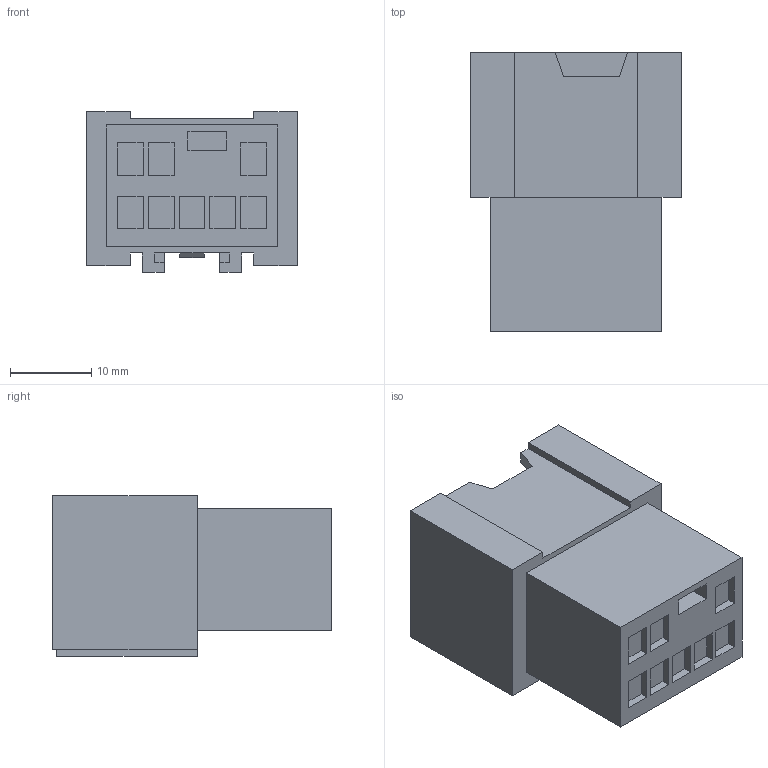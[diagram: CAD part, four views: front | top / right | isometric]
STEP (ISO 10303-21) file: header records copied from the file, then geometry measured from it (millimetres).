
FILE_DESCRIPTION(('CATIA V5 STEP','CAx-IF Rec.Pracs.--- Model Styling and Organization---1.4--- 2014-01-23'),'2;1');
FILE_NAME('\\fss02.ad.sws.co.jp\fs100016\第3設計部\共有\コネクタ第1Gr\【91】一時保管\★カタログ用参考資料\簡易３D\stp_送付用\6098-6974.stp','2024-10-07T06:40:19+00:00',('none'),('none'),'CATIA Version 5-6 Release 2018 SP4','CATIA V5 STEP AP214','none');
FILE_SCHEMA(('AUTOMOTIVE_DESIGN { 1 0 10303 214 1 1 1 1 }'));
Length unit declared in the file: millimetre
Products named in the file (1): 6098-6974
Bounding box: 25.9 x 34.3 x 19.8 mm (x, y, z)
Volume: 8387 mm3; surface area: 5964 mm2
Topology: 1 solids, 1 shells, 151 faces, 394 edges, 262 vertices
Faces by surface type: plane 151
Entity records: 4217 total; most frequent: ORIENTED_EDGE 788, CARTESIAN_POINT 740, DIRECTION 560, VECTOR 394, EDGE_CURVE 394, LINE 394, VERTEX_POINT 262, EDGE_LOOP 170
